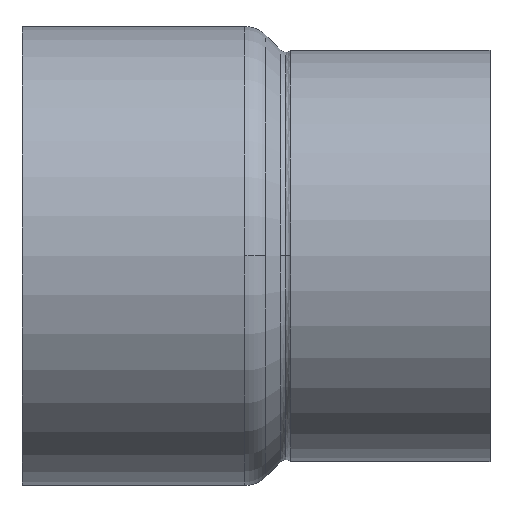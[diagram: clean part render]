
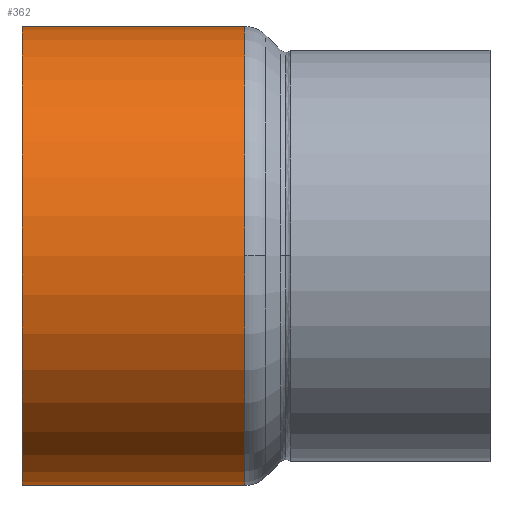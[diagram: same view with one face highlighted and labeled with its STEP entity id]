
A CAD part, top view. The second image highlights one B-rep face of the part: STEP entity #362.
In plain terms, the highlighted cylindrical face has radius 38.05 mm (diameter 76.1 mm), a partial arc.
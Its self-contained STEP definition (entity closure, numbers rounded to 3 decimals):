
#312=CARTESIAN_POINT('',(18.455,0.0,0.0));
#313=DIRECTION('',(1.0,0.0,0.0));
#314=DIRECTION('',(0.0,1.0,0.0));
#315=AXIS2_PLACEMENT_3D('',#312,#313,#314);
#316=CYLINDRICAL_SURFACE('',#315,38.05);
#317=CARTESIAN_POINT('',(0.,38.05,0.0));
#318=VERTEX_POINT('',#317);
#319=CARTESIAN_POINT('',(36.909,38.05,0.0));
#320=VERTEX_POINT('',#319);
#321=CARTESIAN_POINT('',(0.,38.05,0.0));
#322=DIRECTION('',(1.0,0.0,0.0));
#323=VECTOR('',#322,36.909);
#324=LINE('',#321,#323);
#325=EDGE_CURVE('',#318,#320,#324,.T.);
#326=ORIENTED_EDGE('',*,*,#325,.F.);
#327=CARTESIAN_POINT('',(0.,-38.05,0.));
#328=VERTEX_POINT('',#327);
#329=CARTESIAN_POINT('',(0.,0.0,0.0));
#330=DIRECTION('',(1.0,0.0,0.0));
#331=DIRECTION('',(0.0,1.0,0.0));
#332=AXIS2_PLACEMENT_3D('',#329,#330,#331);
#333=CIRCLE('',#332,38.05);
#334=EDGE_CURVE('',#318,#328,#333,.T.);
#335=ORIENTED_EDGE('',*,*,#334,.T.);
#336=CARTESIAN_POINT('',(36.909,-38.05,0.));
#337=VERTEX_POINT('',#336);
#338=CARTESIAN_POINT('',(36.909,-38.05,0.));
#339=DIRECTION('',(-1.0,0.0,0.0));
#340=VECTOR('',#339,36.909);
#341=LINE('',#338,#340);
#342=EDGE_CURVE('',#337,#328,#341,.T.);
#343=ORIENTED_EDGE('',*,*,#342,.F.);
#344=CARTESIAN_POINT('',(36.909,0.,38.05));
#345=VERTEX_POINT('',#344);
#346=CARTESIAN_POINT('',(36.909,0.0,0.0));
#347=DIRECTION('',(1.0,0.0,0.0));
#348=DIRECTION('',(0.0,1.0,0.0));
#349=AXIS2_PLACEMENT_3D('',#346,#347,#348);
#350=CIRCLE('',#349,38.05);
#351=EDGE_CURVE('',#345,#337,#350,.T.);
#352=ORIENTED_EDGE('',*,*,#351,.F.);
#353=CARTESIAN_POINT('',(36.909,0.0,0.0));
#354=DIRECTION('',(1.0,0.0,0.0));
#355=DIRECTION('',(0.0,1.0,0.0));
#356=AXIS2_PLACEMENT_3D('',#353,#354,#355);
#357=CIRCLE('',#356,38.05);
#358=EDGE_CURVE('',#320,#345,#357,.T.);
#359=ORIENTED_EDGE('',*,*,#358,.F.);
#360=EDGE_LOOP('',(#326,#335,#343,#352,#359));
#361=FACE_OUTER_BOUND('',#360,.T.);
#362=ADVANCED_FACE('',(#361),#316,.T.);
